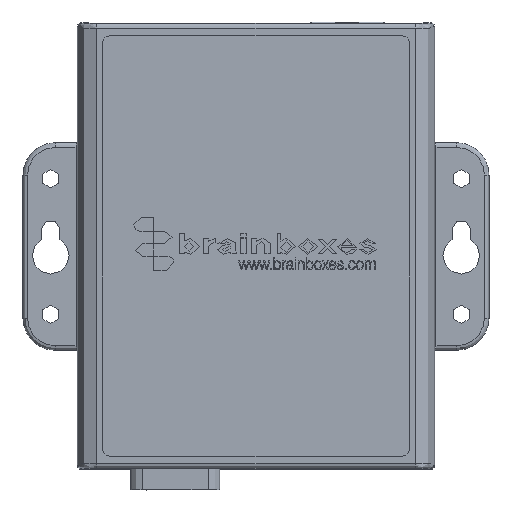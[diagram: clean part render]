
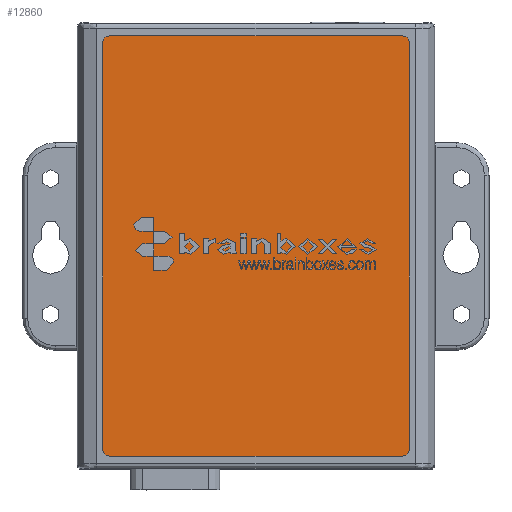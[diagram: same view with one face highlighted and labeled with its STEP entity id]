
A CAD part, top view. The second image highlights one B-rep face of the part: STEP entity #12860.
In plain terms, the highlighted planar face has unit normal (0, 0, 1) as drawn and (0, 1, 0) by its records, which use the part's own axes.
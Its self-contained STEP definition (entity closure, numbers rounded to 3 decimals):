
#12860=ADVANCED_FACE('',(#26569),#26570,.T.);
#26569=FACE_OUTER_BOUND('',#41905,.T.);
#26570=PLANE('',#41906);
#41905=EDGE_LOOP('',(#83670,#83671,#83672,#83673,#83674,#83675,#83676,#83677));
#41906=AXIS2_PLACEMENT_3D('',#83678,#83679,#83680);
#83670=ORIENTED_EDGE('',*,*,#107072,.T.);
#83671=ORIENTED_EDGE('',*,*,#107093,.T.);
#83672=ORIENTED_EDGE('',*,*,#107090,.T.);
#83673=ORIENTED_EDGE('',*,*,#107087,.T.);
#83674=ORIENTED_EDGE('',*,*,#107084,.T.);
#83675=ORIENTED_EDGE('',*,*,#107081,.T.);
#83676=ORIENTED_EDGE('',*,*,#107078,.T.);
#83677=ORIENTED_EDGE('',*,*,#107075,.T.);
#83678=CARTESIAN_POINT('',(-31.75,-0.5,44.05));
#83679=DIRECTION('',(0.0,1.0,0.0));
#83680=DIRECTION('',(1.0,0.0,-0.0));
#107072=EDGE_CURVE('',#130203,#130201,#130204,.T.);
#107075=EDGE_CURVE('',#130207,#130203,#130208,.T.);
#107078=EDGE_CURVE('',#130211,#130207,#130212,.T.);
#107081=EDGE_CURVE('',#130215,#130211,#130216,.T.);
#107084=EDGE_CURVE('',#130219,#130215,#130220,.T.);
#107087=EDGE_CURVE('',#130223,#130219,#130224,.T.);
#107090=EDGE_CURVE('',#130227,#130223,#130228,.T.);
#107093=EDGE_CURVE('',#130201,#130227,#130231,.T.);
#130201=VERTEX_POINT('',#163870);
#130203=VERTEX_POINT('',#163873);
#130204=CIRCLE('',#163874,1.5);
#130207=VERTEX_POINT('',#163878);
#130208=LINE('',#163879,#163880);
#130211=VERTEX_POINT('',#163884);
#130212=CIRCLE('',#163885,1.5);
#130215=VERTEX_POINT('',#163889);
#130216=LINE('',#163890,#163891);
#130219=VERTEX_POINT('',#163895);
#130220=CIRCLE('',#163896,1.5);
#130223=VERTEX_POINT('',#163900);
#130224=LINE('',#163901,#163902);
#130227=VERTEX_POINT('',#163906);
#130228=CIRCLE('',#163907,1.5);
#130231=LINE('',#163911,#163912);
#163870=CARTESIAN_POINT('',(-31.75,-0.5,45.55));
#163873=CARTESIAN_POINT('',(-33.25,-0.5,44.05));
#163874=AXIS2_PLACEMENT_3D('',#187135,#187136,#187137);
#163878=CARTESIAN_POINT('',(-33.25,-0.5,-44.05));
#163879=CARTESIAN_POINT('',(-33.25,-0.5,-44.05));
#163880=VECTOR('',#187139,1.0);
#163884=CARTESIAN_POINT('',(-31.75,-0.5,-45.55));
#163885=AXIS2_PLACEMENT_3D('',#187141,#187142,#187143);
#163889=CARTESIAN_POINT('',(31.75,-0.5,-45.55));
#163890=CARTESIAN_POINT('',(-31.75,-0.5,-45.55));
#163891=VECTOR('',#187145,1.0);
#163895=CARTESIAN_POINT('',(33.25,-0.5,-44.05));
#163896=AXIS2_PLACEMENT_3D('',#187147,#187148,#187149);
#163900=CARTESIAN_POINT('',(33.25,-0.5,44.05));
#163901=CARTESIAN_POINT('',(33.25,-0.5,-44.05));
#163902=VECTOR('',#187151,1.0);
#163906=CARTESIAN_POINT('',(31.75,-0.5,45.55));
#163907=AXIS2_PLACEMENT_3D('',#187153,#187154,#187155);
#163911=CARTESIAN_POINT('',(-31.75,-0.5,45.55));
#163912=VECTOR('',#187157,1.0);
#187135=CARTESIAN_POINT('',(-31.75,-0.5,44.05));
#187136=DIRECTION('',(0.0,1.0,0.0));
#187137=DIRECTION('',(0.0,-0.0,1.0));
#187139=DIRECTION('',(0.,0.0,1.0));
#187141=CARTESIAN_POINT('',(-31.75,-0.5,-44.05));
#187142=DIRECTION('',(0.0,1.0,0.0));
#187143=DIRECTION('',(0.0,0.0,-1.0));
#187145=DIRECTION('',(-1.0,0.0,0.0));
#187147=CARTESIAN_POINT('',(31.75,-0.5,-44.05));
#187148=DIRECTION('',(0.0,1.0,0.0));
#187149=DIRECTION('',(0.0,-0.0,1.0));
#187151=DIRECTION('',(0.,0.0,-1.0));
#187153=CARTESIAN_POINT('',(31.75,-0.5,44.05));
#187154=DIRECTION('',(0.0,1.0,0.0));
#187155=DIRECTION('',(0.0,-0.0,1.0));
#187157=DIRECTION('',(1.0,0.0,0.0));
